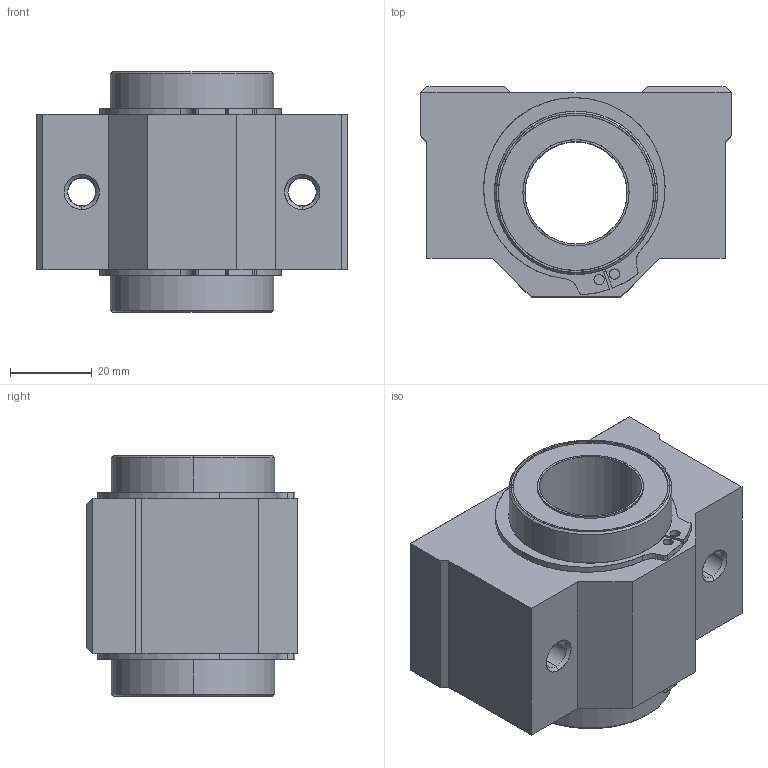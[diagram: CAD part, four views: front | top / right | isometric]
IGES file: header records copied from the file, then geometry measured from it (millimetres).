
Start section: SolidWorks IGES file using analytic representation for surfaces
Global section: file name: D:\SOLIDWORKS PROEKTI\freelance cnc cat\VTORA SERIJA\SC-VUU\SC25VUU.IGS; native system: SolidWorks 2016; preprocessor: SolidWorks 2016; author: User; date: 170805.200933; units: millimetre
Bounding box: 76 x 51.5 x 59 mm (x, y, z)
Surface area: 36599.2 mm2 (no closed solid volume)
Topology: 0 solids, 0 shells, 296 faces, 7629 edges, 9181 vertices
Faces by surface type: bspline 209, revolution 87
